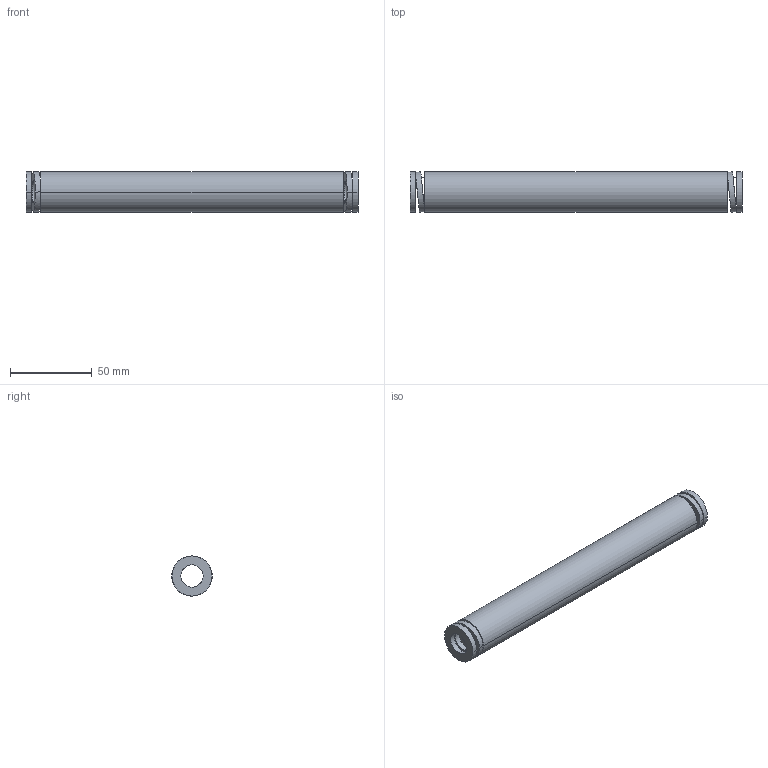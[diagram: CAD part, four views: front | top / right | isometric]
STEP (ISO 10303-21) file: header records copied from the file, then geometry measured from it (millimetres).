
FILE_DESCRIPTION(('CATIA V5 STEP Exchange'),'2;1');
FILE_NAME('C:\Users\Utente\Desktop\IO LAVORO\3D X SITO CF\X SITO\3D files 392B\392-B25-203.stp','2021-08-13T07:41:06+00:00',('none'),('none'),'CATIA Version 5 Release 20 GA (IN-10)','CATIA V5 STEP AP203','none');
FILE_SCHEMA(('CONFIG_CONTROL_DESIGN'));
Length unit declared in the file: millimetre
Products named in the file (1): 392-B25-203
Bounding box: 203 x 24.7 x 24.5 mm (x, y, z)
Volume: 64167.5 mm3; surface area: 27009 mm2
Topology: 1 solids, 1 shells, 38 faces, 92 edges, 64 vertices
Faces by surface type: cylinder 28, plane 10
Entity records: 1602 total; most frequent: CARTESIAN_POINT 719, ORIENTED_EDGE 184, DIRECTION 126, EDGE_CURVE 92, VERTEX_POINT 64, AXIS2_PLACEMENT_3D 61, EDGE_LOOP 56, B_SPLINE_CURVE_WITH_KNOTS 42
